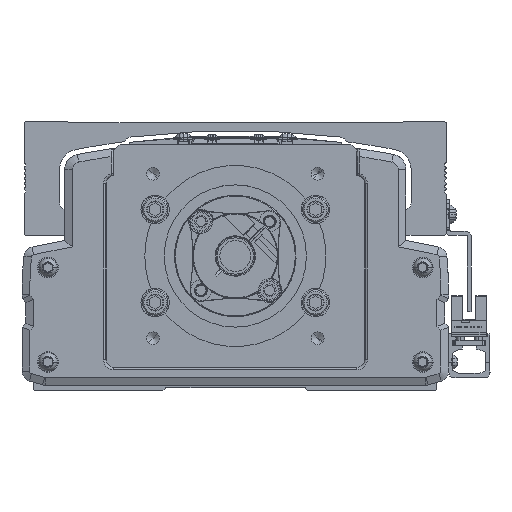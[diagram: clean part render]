
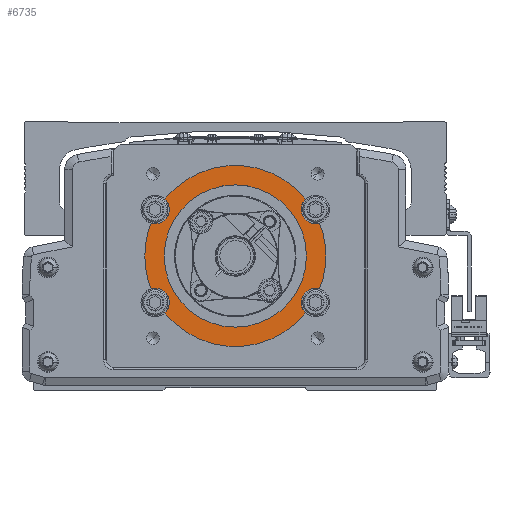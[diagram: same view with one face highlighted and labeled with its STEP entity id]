
A CAD part, front view. The second image highlights one B-rep face of the part: STEP entity #6735.
In plain terms, the highlighted planar face has unit normal (0, -1, 0).
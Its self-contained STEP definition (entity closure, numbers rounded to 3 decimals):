
#6735=ADVANCED_FACE('',(#15679,#15680),#15681,.F.);
#15679=FACE_OUTER_BOUND('',#28345,.T.);
#15680=FACE_BOUND('',#28346,.T.);
#15681=PLANE('',#28347);
#28345=EDGE_LOOP('',(#48841,#48842,#48843,#48844,#48845,#48846,#48847,#48848,#48849,#48850,#48851,#48852,#48853,#48854));
#28346=EDGE_LOOP('',(#48855,#48856));
#28347=AXIS2_PLACEMENT_3D('',#48857,#48858,#48859);
#48841=ORIENTED_EDGE('',*,*,#78023,.F.);
#48842=ORIENTED_EDGE('',*,*,#78024,.T.);
#48843=ORIENTED_EDGE('',*,*,#77436,.T.);
#48844=ORIENTED_EDGE('',*,*,#78025,.F.);
#48845=ORIENTED_EDGE('',*,*,#77113,.F.);
#48846=ORIENTED_EDGE('',*,*,#78026,.T.);
#48847=ORIENTED_EDGE('',*,*,#78027,.F.);
#48848=ORIENTED_EDGE('',*,*,#78028,.F.);
#48849=ORIENTED_EDGE('',*,*,#78029,.T.);
#48850=ORIENTED_EDGE('',*,*,#78030,.T.);
#48851=ORIENTED_EDGE('',*,*,#78031,.F.);
#48852=ORIENTED_EDGE('',*,*,#78032,.F.);
#48853=ORIENTED_EDGE('',*,*,#78033,.T.);
#48854=ORIENTED_EDGE('',*,*,#78034,.F.);
#48855=ORIENTED_EDGE('',*,*,#76499,.F.);
#48856=ORIENTED_EDGE('',*,*,#78035,.F.);
#48857=CARTESIAN_POINT('',(-600.,-396.778,0.));
#48858=DIRECTION('',(0.,1.0,0.));
#48859=DIRECTION('',(-1.0,0.,0.));
#76499=EDGE_CURVE('',#92966,#92964,#92968,.T.);
#77113=EDGE_CURVE('',#93954,#93956,#93957,.T.);
#77436=EDGE_CURVE('',#94450,#94455,#94457,.T.);
#78023=EDGE_CURVE('',#95379,#95380,#95381,.T.);
#78024=EDGE_CURVE('',#95379,#94450,#95382,.T.);
#78025=EDGE_CURVE('',#93956,#94455,#95383,.T.);
#78026=EDGE_CURVE('',#93954,#95384,#95385,.T.);
#78027=EDGE_CURVE('',#95386,#95384,#95387,.T.);
#78028=EDGE_CURVE('',#95388,#95386,#95389,.T.);
#78029=EDGE_CURVE('',#95388,#95390,#95391,.T.);
#78030=EDGE_CURVE('',#95390,#95392,#95393,.T.);
#78031=EDGE_CURVE('',#95394,#95392,#95395,.T.);
#78032=EDGE_CURVE('',#95396,#95394,#95397,.T.);
#78033=EDGE_CURVE('',#95396,#95398,#95399,.T.);
#78034=EDGE_CURVE('',#95380,#95398,#95400,.T.);
#78035=EDGE_CURVE('',#92964,#92966,#95401,.T.);
#92964=VERTEX_POINT('',#115866);
#92966=VERTEX_POINT('',#115869);
#92968=CIRCLE('',#115872,27.5);
#93954=VERTEX_POINT('',#117325);
#93956=VERTEX_POINT('',#117328);
#93957=CIRCLE('',#117329,5.5);
#94450=VERTEX_POINT('',#118033);
#94455=VERTEX_POINT('',#118039);
#94457=CIRCLE('',#118042,35.0);
#95379=VERTEX_POINT('',#119305);
#95380=VERTEX_POINT('',#119306);
#95381=CIRCLE('',#119307,5.5);
#95382=CIRCLE('',#119308,35.0);
#95383=CIRCLE('',#119309,5.5);
#95384=VERTEX_POINT('',#119310);
#95385=CIRCLE('',#119311,35.0);
#95386=VERTEX_POINT('',#119312);
#95387=CIRCLE('',#119313,5.5);
#95388=VERTEX_POINT('',#119314);
#95389=CIRCLE('',#119315,5.5);
#95390=VERTEX_POINT('',#119316);
#95391=CIRCLE('',#119317,35.0);
#95392=VERTEX_POINT('',#119318);
#95393=CIRCLE('',#119319,35.0);
#95394=VERTEX_POINT('',#119320);
#95395=CIRCLE('',#119321,5.5);
#95396=VERTEX_POINT('',#119322);
#95397=CIRCLE('',#119323,5.5);
#95398=VERTEX_POINT('',#119324);
#95399=CIRCLE('',#119325,35.0);
#95400=CIRCLE('',#119326,5.5);
#95401=CIRCLE('',#119327,27.5);
#115866=CARTESIAN_POINT('',(-627.5,-396.778,0.));
#115869=CARTESIAN_POINT('',(-572.5,-396.778,0.));
#115872=AXIS2_PLACEMENT_3D('',#138982,#138983,#138984);
#117325=CARTESIAN_POINT('',(-627.223,-396.778,-21.998));
#117328=CARTESIAN_POINT('',(-625.5,-396.778,-18.));
#117329=AXIS2_PLACEMENT_3D('',#139860,#139861,#139862);
#118033=CARTESIAN_POINT('',(-635.,-396.778,0.));
#118039=CARTESIAN_POINT('',(-632.6,-396.778,-12.738));
#118042=AXIS2_PLACEMENT_3D('',#140265,#140266,#140267);
#119305=CARTESIAN_POINT('',(-632.6,-396.778,12.738));
#119306=CARTESIAN_POINT('',(-625.5,-396.778,18.));
#119307=AXIS2_PLACEMENT_3D('',#141086,#141087,#141088);
#119308=AXIS2_PLACEMENT_3D('',#141089,#141090,#141091);
#119309=AXIS2_PLACEMENT_3D('',#141092,#141093,#141094);
#119310=CARTESIAN_POINT('',(-572.777,-396.778,-21.998));
#119311=AXIS2_PLACEMENT_3D('',#141095,#141096,#141097);
#119312=CARTESIAN_POINT('',(-574.5,-396.778,-18.));
#119313=AXIS2_PLACEMENT_3D('',#141098,#141099,#141100);
#119314=CARTESIAN_POINT('',(-567.4,-396.778,-12.738));
#119315=AXIS2_PLACEMENT_3D('',#141101,#141102,#141103);
#119316=CARTESIAN_POINT('',(-565.,-396.778,0.));
#119317=AXIS2_PLACEMENT_3D('',#141104,#141105,#141106);
#119318=CARTESIAN_POINT('',(-567.4,-396.778,12.738));
#119319=AXIS2_PLACEMENT_3D('',#141107,#141108,#141109);
#119320=CARTESIAN_POINT('',(-574.5,-396.778,18.));
#119321=AXIS2_PLACEMENT_3D('',#141110,#141111,#141112);
#119322=CARTESIAN_POINT('',(-572.777,-396.778,21.998));
#119323=AXIS2_PLACEMENT_3D('',#141113,#141114,#141115);
#119324=CARTESIAN_POINT('',(-627.223,-396.778,21.998));
#119325=AXIS2_PLACEMENT_3D('',#141116,#141117,#141118);
#119326=AXIS2_PLACEMENT_3D('',#141119,#141120,#141121);
#119327=AXIS2_PLACEMENT_3D('',#141122,#141123,#141124);
#138982=CARTESIAN_POINT('',(-600.,-396.778,0.));
#138983=DIRECTION('',(0.,-1.0,0.));
#138984=DIRECTION('',(-1.0,0.,0.));
#139860=CARTESIAN_POINT('',(-631.,-396.778,-18.));
#139861=DIRECTION('',(0.,-1.0,0.));
#139862=DIRECTION('',(-1.0,0.,0.));
#140265=CARTESIAN_POINT('',(-600.,-396.778,0.));
#140266=DIRECTION('',(0.,-1.0,0.));
#140267=DIRECTION('',(-1.0,0.,0.));
#141086=CARTESIAN_POINT('',(-631.,-396.778,18.));
#141087=DIRECTION('',(0.,-1.0,0.));
#141088=DIRECTION('',(-1.0,0.,0.));
#141089=CARTESIAN_POINT('',(-600.,-396.778,0.));
#141090=DIRECTION('',(0.,-1.0,0.));
#141091=DIRECTION('',(-1.0,0.,0.));
#141092=CARTESIAN_POINT('',(-631.,-396.778,-18.));
#141093=DIRECTION('',(0.,-1.0,0.));
#141094=DIRECTION('',(-1.0,0.,0.));
#141095=CARTESIAN_POINT('',(-600.,-396.778,0.));
#141096=DIRECTION('',(0.,-1.0,0.));
#141097=DIRECTION('',(-1.0,0.,0.));
#141098=CARTESIAN_POINT('',(-569.,-396.778,-18.));
#141099=DIRECTION('',(0.,-1.0,0.));
#141100=DIRECTION('',(1.0,0.,0.));
#141101=CARTESIAN_POINT('',(-569.,-396.778,-18.));
#141102=DIRECTION('',(0.,-1.0,0.));
#141103=DIRECTION('',(1.0,0.,0.));
#141104=CARTESIAN_POINT('',(-600.,-396.778,0.));
#141105=DIRECTION('',(0.,-1.0,0.));
#141106=DIRECTION('',(-1.0,0.,0.));
#141107=CARTESIAN_POINT('',(-600.,-396.778,0.));
#141108=DIRECTION('',(0.,-1.0,0.));
#141109=DIRECTION('',(-1.0,0.,0.));
#141110=CARTESIAN_POINT('',(-569.,-396.778,18.));
#141111=DIRECTION('',(0.,-1.0,0.));
#141112=DIRECTION('',(1.0,0.,0.));
#141113=CARTESIAN_POINT('',(-569.,-396.778,18.));
#141114=DIRECTION('',(0.,-1.0,0.));
#141115=DIRECTION('',(1.0,0.,0.));
#141116=CARTESIAN_POINT('',(-600.,-396.778,0.));
#141117=DIRECTION('',(0.,-1.0,0.));
#141118=DIRECTION('',(-1.0,0.,0.));
#141119=CARTESIAN_POINT('',(-631.,-396.778,18.));
#141120=DIRECTION('',(0.,-1.0,0.));
#141121=DIRECTION('',(-1.0,0.,0.));
#141122=CARTESIAN_POINT('',(-600.,-396.778,0.));
#141123=DIRECTION('',(0.,-1.0,0.));
#141124=DIRECTION('',(-1.0,0.,0.));
